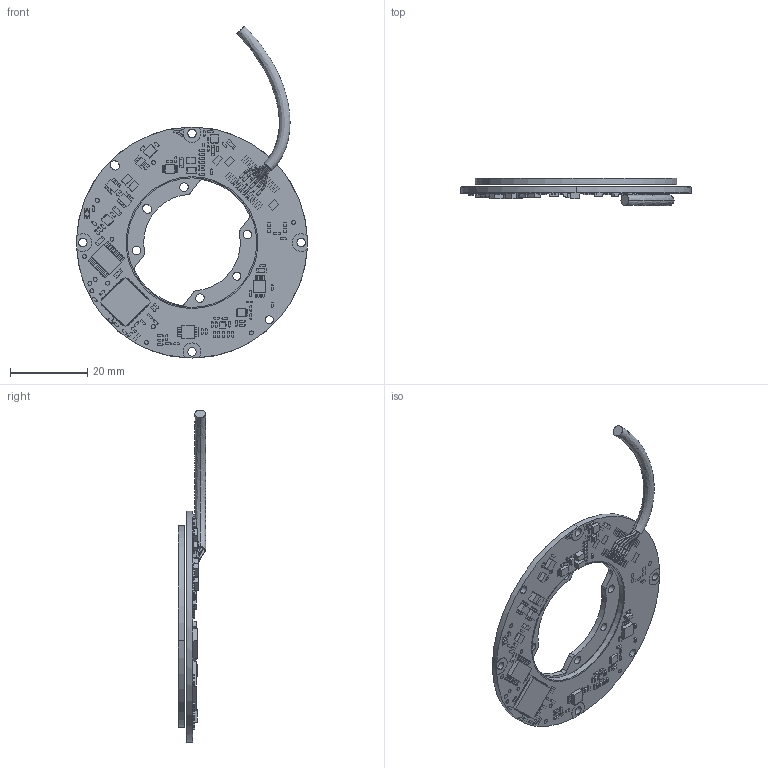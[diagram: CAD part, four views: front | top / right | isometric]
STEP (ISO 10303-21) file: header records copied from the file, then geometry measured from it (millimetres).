
FILE_DESCRIPTION (( 'STEP AP214' ), '1' );
FILE_NAME ('VLP-60.STEP', '2025-03-23T13:57:09', ( '' ), ( '' ), 'SwSTEP 2.0', 'SolidWorks 2022', '' );
FILE_SCHEMA (( 'AUTOMOTIVE_DESIGN' ));
Length unit declared in the file: millimetre
Products named in the file (4): PB-00452_Simplified; PB-00453; VLP Cable; VLP-60
Assembly tree (3 placements, depth 2):
  VLP-60
    PB-00452_Simplified
    PB-00453
    VLP Cable
Bounding box: 59.7 x 7.1 x 85.89 mm (x, y, z)
Volume: 5818.7 mm3; surface area: 9098.2 mm2
Topology: 94 solids, 94 shells, 3363 faces, 8423 edges, 5517 vertices
Faces by surface type: plane 2161, cylinder 1185, bspline 17
Entity records: 141518 total; most frequent: CARTESIAN_POINT 21098, DIRECTION 17584, ORIENTED_EDGE 16852, EDGE_CURVE 8426, LINE 5916, VECTOR 5916, AXIS2_PLACEMENT_3D 5834, VERTEX_POINT 5520
